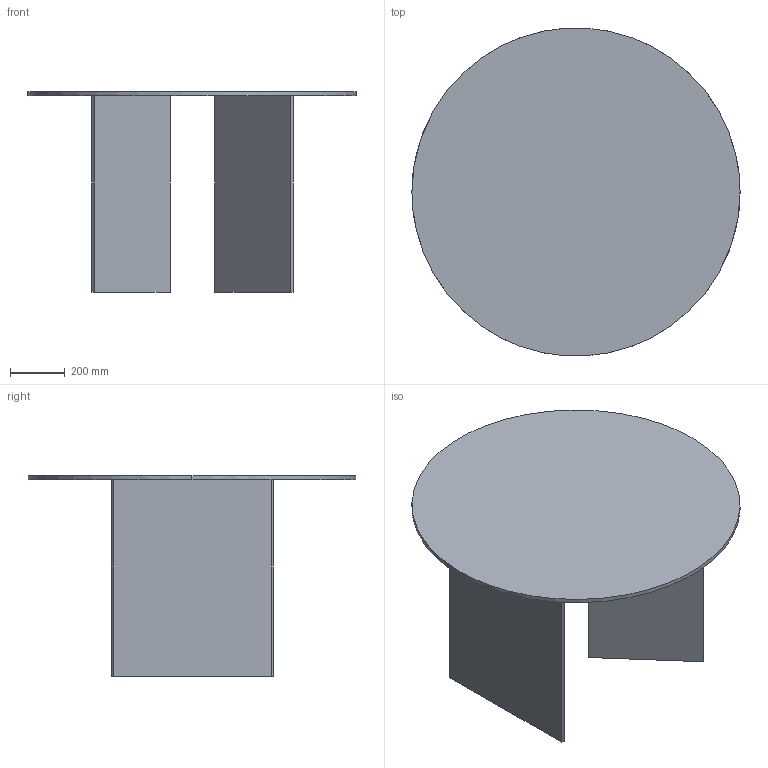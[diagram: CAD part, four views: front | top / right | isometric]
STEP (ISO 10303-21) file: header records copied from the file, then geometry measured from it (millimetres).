
FILE_DESCRIPTION(/* description */ (''),/* implementation_level */ '2;1');
FILE_NAME(/* name */ '216638 - corner d120',/* time_stamp */ '2014-07-31T16:11:31+02:00',/* author */ (''),/* organization */ (''),/* preprocessor_version */ 'ST-DEVELOPER v10',/* originating_system */ '',/* authorisation */ '');
FILE_SCHEMA (('CONFIG_CONTROL_DESIGN'));
Length unit declared in the file: millimetre
Products named in the file (1): 1
Bounding box: 1200 x 1197.82 x 735 mm (x, y, z)
Volume: 32046090.8 mm3; surface area: 4755174.6 mm2
Topology: 3 solids, 3 shells, 18 faces, 50 edges, 34 vertices
Faces by surface type: plane 12, bspline 6
Entity records: 640 total; most frequent: CARTESIAN_POINT 249, ORIENTED_EDGE 72, EDGE_CURVE 36, B_SPLINE_CURVE_WITH_KNOTS 26, DIRECTION 26, VERTEX_POINT 24, ADVANCED_FACE 18, FACE_OUTER_BOUND 18
